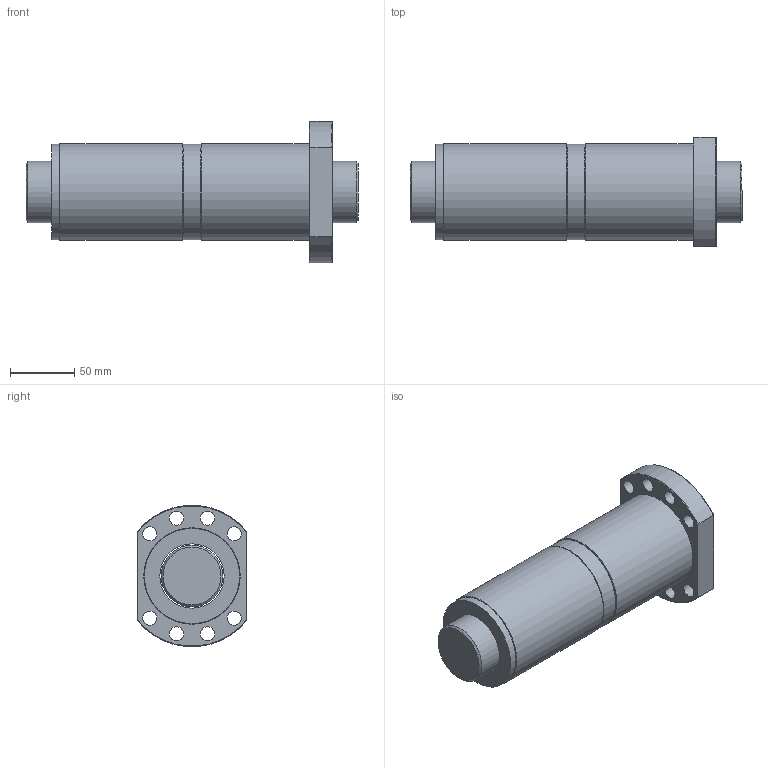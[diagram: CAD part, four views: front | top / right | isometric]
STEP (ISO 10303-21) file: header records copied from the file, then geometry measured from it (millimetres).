
FILE_DESCRIPTION(/* description */ (''),/* implementation_level */ '2;1');
FILE_NAME(/* name */ 'DFS5020',/* time_stamp */ '2007-10-26T13:53:41+08:00',/* author */ (''),/* organization */ (''),/* preprocessor_version */ 'ST-DEVELOPER v9',/* originating_system */ 'UGS - NX 3.0',/* authorisation */ '');
FILE_SCHEMA (('CONFIG_CONTROL_DESIGN'));
Length unit declared in the file: millimetre
Products named in the file (1): jaso15A4i33f
Bounding box: 258 x 85 x 109.65 mm (x, y, z)
Volume: 1055565.3 mm3; surface area: 167165.7 mm2
Topology: 6 solids, 6 shells, 49 faces, 98 edges, 63 vertices
Faces by surface type: cylinder 22, plane 16, torus 9, cone 2
Full cylindrical faces by diameter (mm): 11 x8, 48 x1, 50 x5, 74 x4, 75 x2
Entity records: 1412 total; most frequent: CARTESIAN_POINT 328, DIRECTION 218, ORIENTED_EDGE 142, AXIS2_PLACEMENT_3D 105, EDGE_LOOP 104, FACE_BOUND 80, EDGE_CURVE 71, VERTEX_POINT 63
